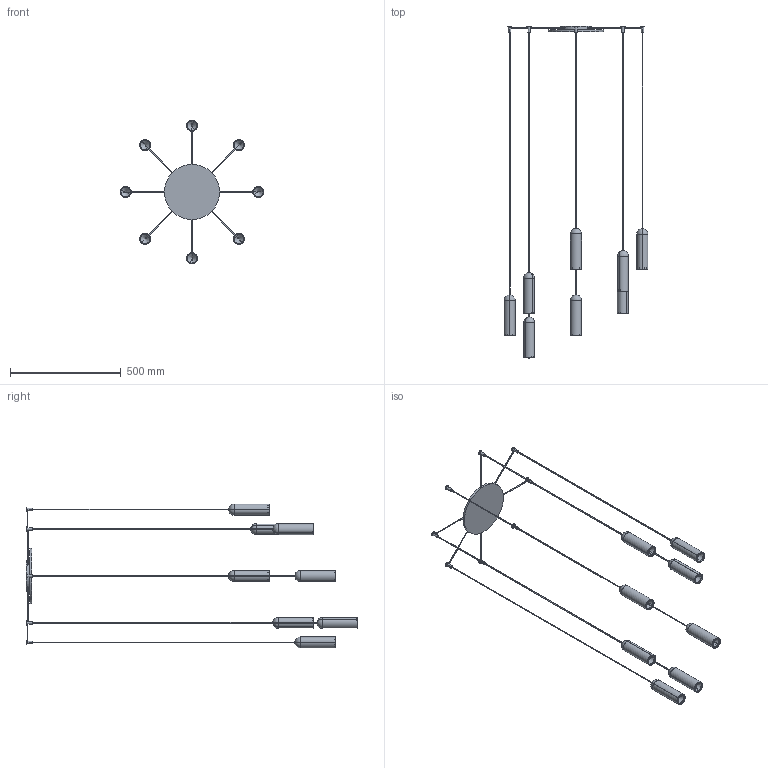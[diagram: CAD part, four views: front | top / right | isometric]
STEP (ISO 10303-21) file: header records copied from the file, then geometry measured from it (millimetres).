
FILE_DESCRIPTION (( 'STEP AP203' ), '1' );
FILE_NAME ('NAN08-00-NANUM 8 ROSONE CENTRALE.STEP', '2024-07-31T07:27:03', ( '' ), ( '' ), 'SwSTEP 2.0', 'SolidWorks 2022', '' );
FILE_SCHEMA (( 'CONFIG_CONTROL_DESIGN' ));
Length unit declared in the file: millimetre
Products named in the file (7): NAN08-00-NANUM 8 ROSONE CENTRALE; NANUM_LAMPADA SINGOLA_H=1500; NANUM_LAMPADA SINGOLA_H=1600; NANUM_LAMPADA SINGOLA_H=1800; NANUM_LAMPADA SINGOLA_H=1900; NANUM_Rosone diam.250_Nanum 8<A macchina>; NANUM_LAMPADA SINGOLA_H=1700
Assembly tree (9 placements, depth 2):
  NAN08-00-NANUM 8 ROSONE CENTRALE
    NANUM_Rosone diam.250_Nanum 8<A macchina>
    NANUM_LAMPADA SINGOLA_H=1600  x2
    NANUM_LAMPADA SINGOLA_H=1700  x2
    NANUM_LAMPADA SINGOLA_H=1900  x2
    NANUM_LAMPADA SINGOLA_H=1800
    NANUM_LAMPADA SINGOLA_H=1500
Bounding box: 650 x 1500 x 650 mm (x, y, z)
Volume: 1431551.5 mm3; surface area: 742690.9 mm2
Topology: 25 solids, 25 shells, 304 faces, 667 edges, 382 vertices
Faces by surface type: cylinder 163, plane 61, cone 32, sphere 32, torus 16
Entity records: 6274 total; most frequent: CARTESIAN_POINT 1225, DIRECTION 1009, ORIENTED_EDGE 774, AXIS2_PLACEMENT_3D 442, EDGE_CURVE 387, VERTEX_POINT 238, EDGE_LOOP 229, CIRCLE 222
